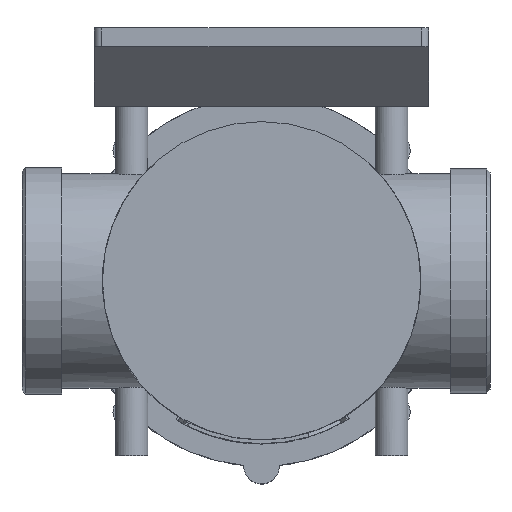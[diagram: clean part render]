
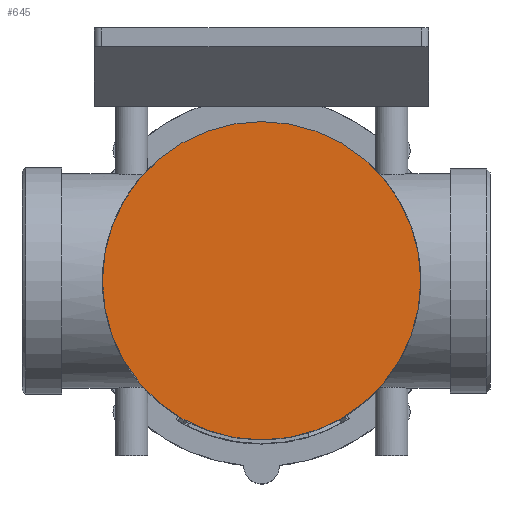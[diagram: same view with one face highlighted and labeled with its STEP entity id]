
A CAD part, top view. The second image highlights one B-rep face of the part: STEP entity #645.
In plain terms, the highlighted planar face has unit normal (0, 0, 1).
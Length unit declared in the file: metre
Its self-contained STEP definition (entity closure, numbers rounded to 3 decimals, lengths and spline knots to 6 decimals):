
#645 = ADVANCED_FACE( '', ( #1597 ), #1598, .T. );
#1597 = FACE_OUTER_BOUND( '', #5140, .T. );
#1598 = PLANE( '', #5141 );
#5140 = EDGE_LOOP( '', ( #12183, #12184 ) );
#5141 = AXIS2_PLACEMENT_3D( '', #12185, #12186, #12187 );
#12183 = ORIENTED_EDGE( '', *, *, #15162, .T. );
#12184 = ORIENTED_EDGE( '', *, *, #15163, .T. );
#12185 = CARTESIAN_POINT( '', ( 0.0015, 0., 0.0862 ) );
#12186 = DIRECTION( '', ( 0., 0., 1. ) );
#12187 = DIRECTION( '', ( 1., 0., 0. ) );
#15162 = EDGE_CURVE( '', #16920, #16583, #16921, .T. );
#15163 = EDGE_CURVE( '', #16583, #16920, #16922, .T. );
#16583 = VERTEX_POINT( '', #19501 );
#16920 = VERTEX_POINT( '', #20520 );
#16921 = CIRCLE( '', #20521, 0.04285 );
#16922 = CIRCLE( '', #20522, 0.04285 );
#19501 = CARTESIAN_POINT( '', ( 0.04435, 0., 0.0862 ) );
#20520 = CARTESIAN_POINT( '', ( -0.04135, 0., 0.0862 ) );
#20521 = AXIS2_PLACEMENT_3D( '', #24437, #24438, #24439 );
#20522 = AXIS2_PLACEMENT_3D( '', #24440, #24441, #24442 );
#24437 = CARTESIAN_POINT( '', ( 0.0015, 0., 0.0862 ) );
#24438 = DIRECTION( '', ( 0., 0., 1. ) );
#24439 = DIRECTION( '', ( 1., 0., 0. ) );
#24440 = CARTESIAN_POINT( '', ( 0.0015, 0., 0.0862 ) );
#24441 = DIRECTION( '', ( 0., 0., 1. ) );
#24442 = DIRECTION( '', ( 1., 0., 0. ) );
